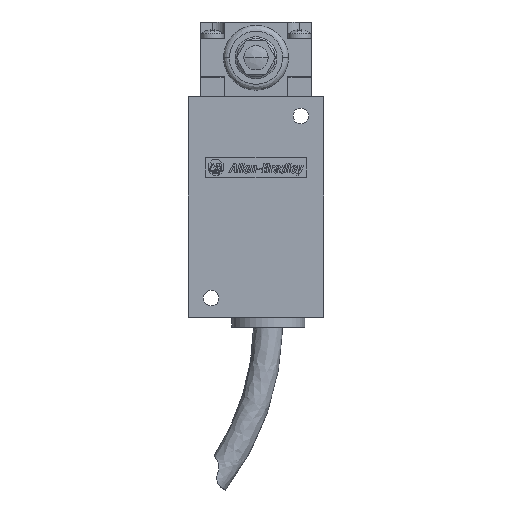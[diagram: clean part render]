
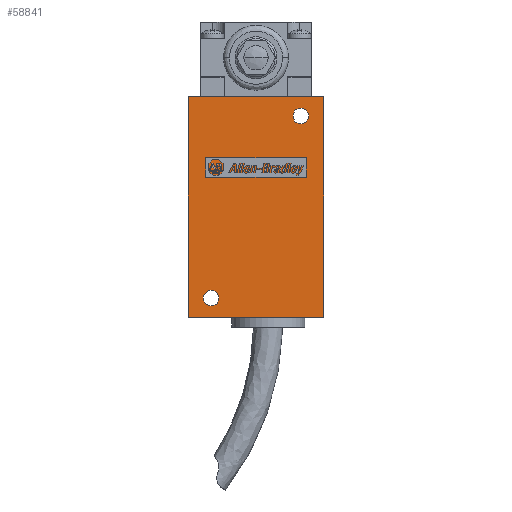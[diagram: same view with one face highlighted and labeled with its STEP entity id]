
A CAD part, front view. The second image highlights one B-rep face of the part: STEP entity #58841.
In plain terms, the highlighted planar face has unit normal (0, -1, 0).
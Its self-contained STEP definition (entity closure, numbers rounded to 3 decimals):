
#3279 = CARTESIAN_POINT ( 'NONE',  ( -14.681, -19.05, -68.466 ) ) ;
#3280 = DIRECTION ( 'NONE',  ( 0., 0., -1. ) ) ;
#3281 = DIRECTION ( 'NONE',  ( 0., 1., 0. ) ) ;
#3282 = CARTESIAN_POINT ( 'NONE',  ( -14.681, -19.05, -65.888 ) ) ;
#3283 = AXIS2_PLACEMENT_3D ( 'NONE', #3282, #3281, #3280 ) ;
#3284 = CIRCLE ( 'NONE', #3283, 2.578 ) ;
#3285 = CARTESIAN_POINT ( 'NONE',  ( -14.681, -19.05, -63.309 ) ) ;
#3353 = DIRECTION ( 'NONE',  ( 0., 0., -1. ) ) ;
#3354 = DIRECTION ( 'NONE',  ( 0., 1., 0. ) ) ;
#3355 = CARTESIAN_POINT ( 'NONE',  ( 14.681, -19.05, -6.35 ) ) ;
#3356 = AXIS2_PLACEMENT_3D ( 'NONE', #3355, #3354, #3353 ) ;
#3357 = CIRCLE ( 'NONE', #3356, 2.578 ) ;
#3358 = CARTESIAN_POINT ( 'NONE',  ( 14.681, -19.05, -3.772 ) ) ;
#3527 = CARTESIAN_POINT ( 'NONE',  ( 14.681, -19.05, -8.928 ) ) ;
#4741 = DIRECTION ( 'NONE',  ( 0., 0., -1. ) ) ;
#4742 = DIRECTION ( 'NONE',  ( 0., 1., 0. ) ) ;
#4743 = CARTESIAN_POINT ( 'NONE',  ( 14.681, -19.05, -6.35 ) ) ;
#4744 = AXIS2_PLACEMENT_3D ( 'NONE', #4743, #4742, #4741 ) ;
#4745 = CIRCLE ( 'NONE', #4744, 2.578 ) ;
#4801 = DIRECTION ( 'NONE',  ( 0., 0., -1. ) ) ;
#4802 = DIRECTION ( 'NONE',  ( 0., 1., 0. ) ) ;
#4803 = CARTESIAN_POINT ( 'NONE',  ( -14.681, -19.05, -65.888 ) ) ;
#4804 = AXIS2_PLACEMENT_3D ( 'NONE', #4803, #4802, #4801 ) ;
#4805 = CIRCLE ( 'NONE', #4804, 2.578 ) ;
#5904 = FACE_BOUND ( 'NONE', #58874, .T. ) ;
#5905 = FACE_OUTER_BOUND ( 'NONE', #58849, .T. ) ;
#5906 = FACE_BOUND ( 'NONE', #58843, .T. ) ;
#5948 = CARTESIAN_POINT ( 'NONE',  ( -22.225, -19.05, 0. ) ) ;
#5949 = DIRECTION ( 'NONE',  ( -1., 0., 0. ) ) ;
#5950 = VECTOR ( 'NONE', #5949, 1000. ) ;
#5951 = CARTESIAN_POINT ( 'NONE',  ( -22.225, -19.05, 0. ) ) ;
#5952 = LINE ( 'NONE', #5951, #5950 ) ;
#5954 = CARTESIAN_POINT ( 'NONE',  ( 22.225, -19.05, 0. ) ) ;
#5956 = DIRECTION ( 'NONE',  ( 0., 0., -1. ) ) ;
#5957 = VECTOR ( 'NONE', #5956, 1000. ) ;
#5958 = CARTESIAN_POINT ( 'NONE',  ( 22.225, -19.05, -72.238 ) ) ;
#5959 = LINE ( 'NONE', #5958, #5957 ) ;
#5964 = CARTESIAN_POINT ( 'NONE',  ( -22.225, -19.05, -72.238 ) ) ;
#5965 = CARTESIAN_POINT ( 'NONE',  ( 22.225, -19.05, -72.238 ) ) ;
#5967 = DIRECTION ( 'NONE',  ( -1., 0., 0. ) ) ;
#5968 = VECTOR ( 'NONE', #5967, 1000. ) ;
#5970 = CARTESIAN_POINT ( 'NONE',  ( 0., -19.05, -72.238 ) ) ;
#5972 = LINE ( 'NONE', #5970, #5968 ) ;
#5974 = DIRECTION ( 'NONE',  ( 0., 0., -1. ) ) ;
#5976 = DIRECTION ( 'NONE',  ( 0., -1., 0. ) ) ;
#5977 = CARTESIAN_POINT ( 'NONE',  ( 22.225, -19.05, -72.238 ) ) ;
#5978 = AXIS2_PLACEMENT_3D ( 'NONE', #5977, #5976, #5974 ) ;
#5980 = PLANE ( 'NONE',  #5978 ) ;
#6378 = DIRECTION ( 'NONE',  ( 0., 0., 1. ) ) ;
#6379 = VECTOR ( 'NONE', #6378, 1000. ) ;
#6380 = CARTESIAN_POINT ( 'NONE',  ( -22.225, -19.05, -72.238 ) ) ;
#6381 = LINE ( 'NONE', #6380, #6379 ) ;
#57775 = VERTEX_POINT ( 'NONE', #3285 ) ;
#57777 = EDGE_CURVE ( 'NONE', #57779, #57775, #3284, .T. ) ;
#57779 = VERTEX_POINT ( 'NONE', #3279 ) ;
#57803 = VERTEX_POINT ( 'NONE', #3358 ) ;
#57807 = EDGE_CURVE ( 'NONE', #57896, #57803, #3357, .T. ) ;
#57896 = VERTEX_POINT ( 'NONE', #3527 ) ;
#58510 = EDGE_CURVE ( 'NONE', #57803, #57896, #4745, .T. ) ;
#58540 = EDGE_CURVE ( 'NONE', #57775, #57779, #4805, .T. ) ;
#58841 = ADVANCED_FACE ( 'NONE', ( #5906, #5905, #5904 ), #5980, .T. ) ;
#58843 = EDGE_LOOP ( 'NONE', ( #58844, #58846 ) ) ;
#58844 = ORIENTED_EDGE ( 'NONE', *, *, #57807, .T. ) ;
#58846 = ORIENTED_EDGE ( 'NONE', *, *, #58510, .T. ) ;
#58849 = EDGE_LOOP ( 'NONE', ( #58851, #58861, #58867, #58968 ) ) ;
#58851 = ORIENTED_EDGE ( 'NONE', *, *, #58854, .F. ) ;
#58854 = EDGE_CURVE ( 'NONE', #58857, #58858, #5972, .T. ) ;
#58857 = VERTEX_POINT ( 'NONE', #5965 ) ;
#58858 = VERTEX_POINT ( 'NONE', #5964 ) ;
#58861 = ORIENTED_EDGE ( 'NONE', *, *, #58863, .F. ) ;
#58863 = EDGE_CURVE ( 'NONE', #58865, #58857, #5959, .T. ) ;
#58865 = VERTEX_POINT ( 'NONE', #5954 ) ;
#58867 = ORIENTED_EDGE ( 'NONE', *, *, #58869, .T. ) ;
#58869 = EDGE_CURVE ( 'NONE', #58865, #58872, #5952, .T. ) ;
#58872 = VERTEX_POINT ( 'NONE', #5948 ) ;
#58874 = EDGE_LOOP ( 'NONE', ( #58971, #58972 ) ) ;
#58968 = ORIENTED_EDGE ( 'NONE', *, *, #58969, .F. ) ;
#58969 = EDGE_CURVE ( 'NONE', #58858, #58872, #6381, .T. ) ;
#58971 = ORIENTED_EDGE ( 'NONE', *, *, #57777, .T. ) ;
#58972 = ORIENTED_EDGE ( 'NONE', *, *, #58540, .T. ) ;
